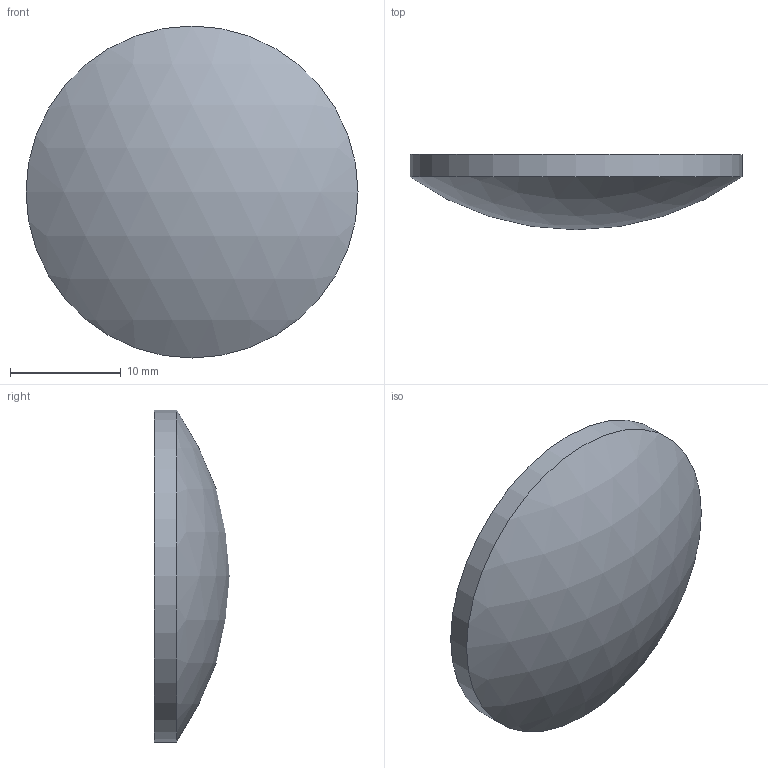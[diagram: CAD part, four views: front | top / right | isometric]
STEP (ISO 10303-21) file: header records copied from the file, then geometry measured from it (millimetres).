
FILE_DESCRIPTION((''),'2;1');
FILE_NAME('Y:\メカ関係\2能登便\素子ﾓﾃﾞﾙ（角屋さま野中さま⇒川島）\5月分\1_球面平凸レンズ-BK7\SLB-P\φ30\SLB-30-50P\SLB-30-50P.stp','2009-05-18T15:50:42',('usernoto011'),(''),'Autodesk Inventor 2008','Autodesk Inventor 2008','');
FILE_SCHEMA(('AUTOMOTIVE_DESIGN { 1 0 10303 214 1 1 1 1 }'));
Length unit declared in the file: millimetre
Products named in the file (1): SLB-30-50P
Bounding box: 30 x 6.8 x 30 mm (x, y, z)
Volume: 3176.2 mm3; surface area: 1676.2 mm2
Topology: 1 solids, 1 shells, 3 faces, 3 edges, 2 vertices
Faces by surface type: sphere 1, cylinder 1, plane 1
Full cylindrical faces by diameter (mm): 30 x1
Entity records: 80 total; most frequent: DIRECTION 12, CARTESIAN_POINT 8, AXIS2_PLACEMENT_3D 6, ORIENTED_EDGE 4, EDGE_LOOP 4, FACE_OUTER_BOUND 3, ADVANCED_FACE 3, DIMENSIONAL_EXPONENTS 2
